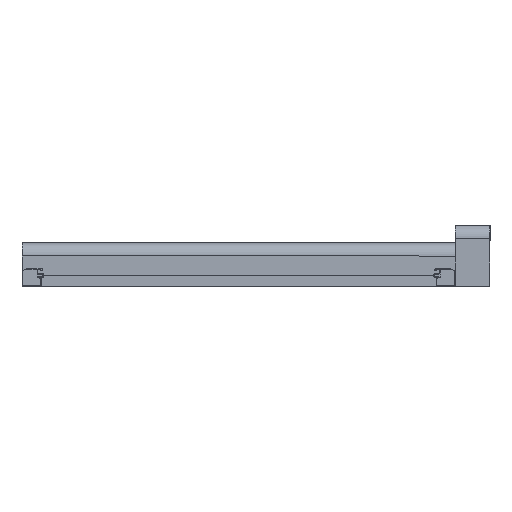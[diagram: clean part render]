
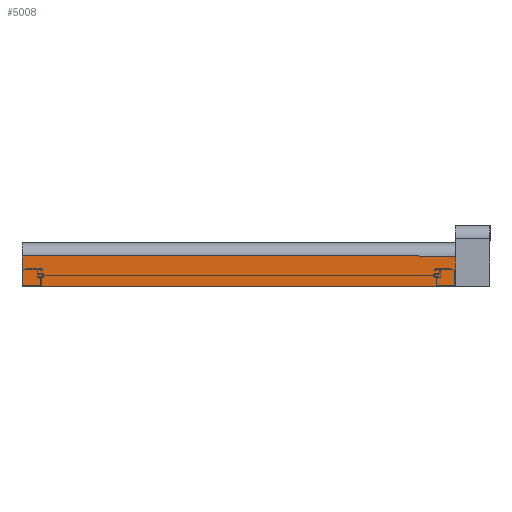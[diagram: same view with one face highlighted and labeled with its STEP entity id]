
A CAD part, front view. The second image highlights one B-rep face of the part: STEP entity #5008.
In plain terms, the highlighted planar face has unit normal (0, -1, 0).
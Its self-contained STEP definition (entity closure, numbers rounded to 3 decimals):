
#34 = CARTESIAN_POINT ( 'NONE',  ( 2500., 3000., 175. ) ) ;
#37 = CARTESIAN_POINT ( 'NONE',  ( 2500., 3000., 0. ) ) ;
#74 = EDGE_CURVE ( 'NONE', #1986, #179, #559, .T. ) ;
#179 = VERTEX_POINT ( 'NONE', #330 ) ;
#202 = CARTESIAN_POINT ( 'NONE',  ( 2500., 3000., 175. ) ) ;
#244 = ORIENTED_EDGE ( 'NONE', *, *, #5139, .F. ) ;
#330 = CARTESIAN_POINT ( 'NONE',  ( 0., 3000., 175. ) ) ;
#363 = PLANE ( 'NONE',  #2032 ) ;
#519 = VECTOR ( 'NONE', #2666, 1000. ) ;
#559 = LINE ( 'NONE', #202, #1964 ) ;
#807 = LINE ( 'NONE', #2728, #519 ) ;
#815 = EDGE_CURVE ( 'NONE', #1986, #3782, #2489, .T. ) ;
#1643 = CARTESIAN_POINT ( 'NONE',  ( 2500., 3000., 0. ) ) ;
#1964 = VECTOR ( 'NONE', #3148, 1000. ) ;
#1986 = VERTEX_POINT ( 'NONE', #34 ) ;
#2032 = AXIS2_PLACEMENT_3D ( 'NONE', #1643, #3269, #3712 ) ;
#2092 = DIRECTION ( 'NONE',  ( -1., 0., 0. ) ) ;
#2336 = ORIENTED_EDGE ( 'NONE', *, *, #3486, .T. ) ;
#2489 = LINE ( 'NONE', #2971, #4066 ) ;
#2666 = DIRECTION ( 'NONE',  ( 0., 0., -1. ) ) ;
#2728 = CARTESIAN_POINT ( 'NONE',  ( 0., 3000., 0. ) ) ;
#2881 = CARTESIAN_POINT ( 'NONE',  ( 0., 3000., 0. ) ) ;
#2923 = DIRECTION ( 'NONE',  ( 0., 0., -1. ) ) ;
#2965 = CARTESIAN_POINT ( 'NONE',  ( 2500., 3000., 0. ) ) ;
#2971 = CARTESIAN_POINT ( 'NONE',  ( 2500., 3000., 0. ) ) ;
#3148 = DIRECTION ( 'NONE',  ( -1., 0., 0. ) ) ;
#3269 = DIRECTION ( 'NONE',  ( 0., 1., 0. ) ) ;
#3417 = VECTOR ( 'NONE', #2092, 1000. ) ;
#3486 = EDGE_CURVE ( 'NONE', #179, #3711, #807, .T. ) ;
#3614 = ORIENTED_EDGE ( 'NONE', *, *, #74, .T. ) ;
#3633 = EDGE_LOOP ( 'NONE', ( #2336, #244, #3819, #3614 ) ) ;
#3711 = VERTEX_POINT ( 'NONE', #2881 ) ;
#3712 = DIRECTION ( 'NONE',  ( 0., 0., 1. ) ) ;
#3782 = VERTEX_POINT ( 'NONE', #2965 ) ;
#3819 = ORIENTED_EDGE ( 'NONE', *, *, #815, .F. ) ;
#4066 = VECTOR ( 'NONE', #2923, 1000. ) ;
#5008 = ADVANCED_FACE ( 'NONE', ( #5053 ), #363, .F. ) ;
#5053 = FACE_OUTER_BOUND ( 'NONE', #3633, .T. ) ;
#5139 = EDGE_CURVE ( 'NONE', #3782, #3711, #5315, .T. ) ;
#5315 = LINE ( 'NONE', #37, #3417 ) ;
